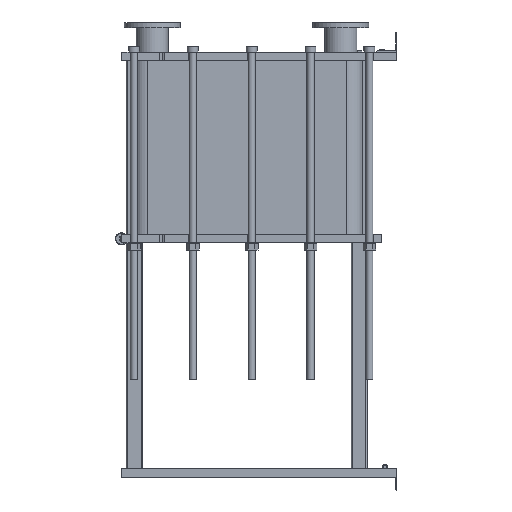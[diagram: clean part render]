
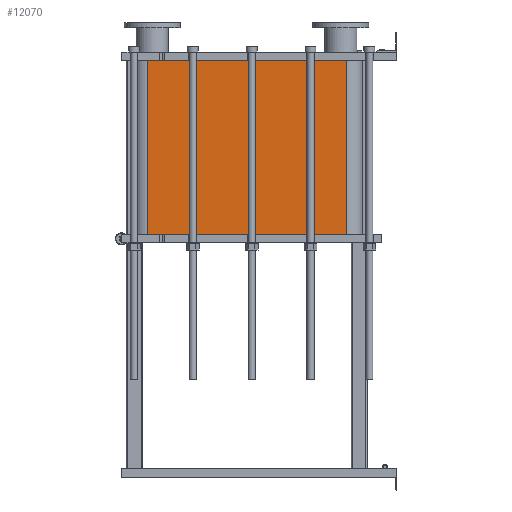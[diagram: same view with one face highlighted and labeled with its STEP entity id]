
A CAD part, left-side view. The second image highlights one B-rep face of the part: STEP entity #12070.
In plain terms, the highlighted planar face has unit normal (-1, 0, 0).
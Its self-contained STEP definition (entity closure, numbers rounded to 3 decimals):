
#1064=LINE('',#21140,#2164);
#1065=LINE('',#21144,#2165);
#1066=LINE('',#21146,#2166);
#1067=LINE('',#21147,#2167);
#2164=VECTOR('',#15790,10.);
#2165=VECTOR('',#15795,10.);
#2166=VECTOR('',#15796,10.);
#2167=VECTOR('',#15797,10.);
#3304=FACE_OUTER_BOUND('',#4091,.T.);
#4091=EDGE_LOOP('',(#9793,#9794,#9795,#9796));
#5677=VERTEX_POINT('',#21137);
#5678=VERTEX_POINT('',#21139);
#5679=VERTEX_POINT('',#21143);
#5680=VERTEX_POINT('',#21145);
#7118=EDGE_CURVE('',#5678,#5677,#1064,.T.);
#7120=EDGE_CURVE('',#5677,#5679,#1065,.T.);
#7121=EDGE_CURVE('',#5680,#5679,#1066,.T.);
#7122=EDGE_CURVE('',#5680,#5678,#1067,.T.);
#9793=ORIENTED_EDGE('',*,*,#7120,.T.);
#9794=ORIENTED_EDGE('',*,*,#7121,.F.);
#9795=ORIENTED_EDGE('',*,*,#7122,.T.);
#9796=ORIENTED_EDGE('',*,*,#7118,.T.);
#11441=PLANE('',#13191);
#12070=ADVANCED_FACE('',(#3304),#11441,.T.);
#13191=AXIS2_PLACEMENT_3D('',#21142,#15793,#15794);
#15790=DIRECTION('',(0.,0.,-1.));
#15793=DIRECTION('center_axis',(-1.,0.,0.));
#15794=DIRECTION('ref_axis',(0.,1.,0.));
#15795=DIRECTION('',(0.,-1.,0.));
#15796=DIRECTION('',(0.,0.,-1.));
#15797=DIRECTION('',(0.,1.,0.));
#21137=CARTESIAN_POINT('',(-248.152,1243.818,-872.85));
#21139=CARTESIAN_POINT('',(-248.152,1243.818,0.));
#21140=CARTESIAN_POINT('',(-248.152,1243.818,0.));
#21142=CARTESIAN_POINT('Origin',(-248.152,251.818,0.));
#21143=CARTESIAN_POINT('',(-248.152,251.818,-872.85));
#21144=CARTESIAN_POINT('',(-248.152,499.818,-872.85));
#21145=CARTESIAN_POINT('',(-248.152,251.818,0.));
#21146=CARTESIAN_POINT('',(-248.152,251.818,0.));
#21147=CARTESIAN_POINT('',(-248.152,251.818,0.));
